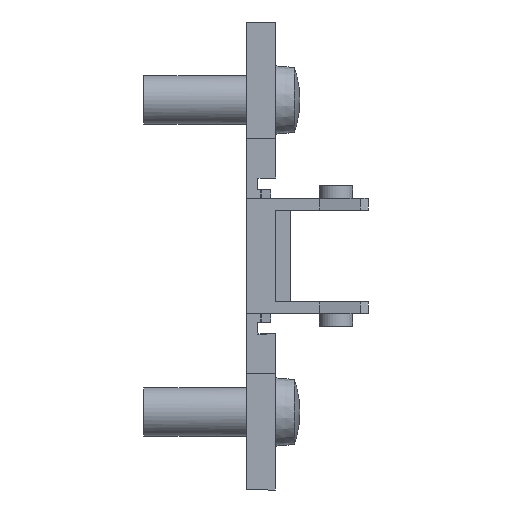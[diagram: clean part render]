
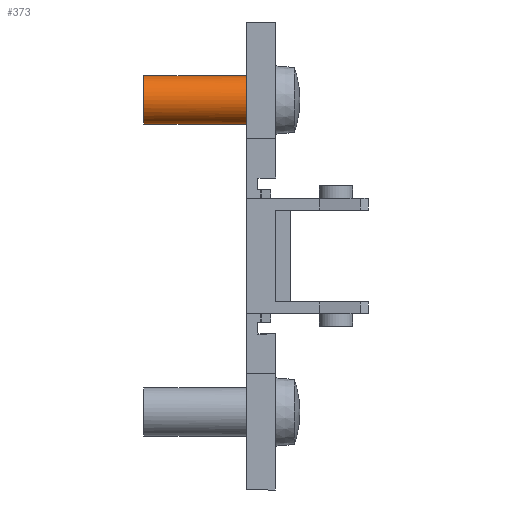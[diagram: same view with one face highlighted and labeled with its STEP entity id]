
A CAD part, front view. The second image highlights one B-rep face of the part: STEP entity #373.
In plain terms, the highlighted cylindrical face has radius 2.5 mm (diameter 5 mm), a partial arc.
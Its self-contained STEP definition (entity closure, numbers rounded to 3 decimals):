
#45 = EDGE_CURVE ( 'NONE', #3146, #3150, #3586, .T. ) ;
#65 = EDGE_CURVE ( 'NONE', #2855, #3114, #3624, .T. ) ;
#140 = EDGE_CURVE ( 'NONE', #3114, #3146, #3754, .T. ) ;
#203 = EDGE_CURVE ( 'NONE', #3145, #3015, #3866, .T. ) ;
#245 = EDGE_LOOP ( 'NONE', ( #2078, #2106, #2115, #2096, #2081, #2092 ) ) ;
#373 = ADVANCED_FACE ( 'NONE', ( #4056 ), #4059, .T. ) ;
#660 = DIRECTION ( 'NONE',  ( 0., 0., -1. ) ) ;
#661 = DIRECTION ( 'NONE',  ( -1., 0., 0. ) ) ;
#662 = CARTESIAN_POINT ( 'NONE',  ( -10.5, 0., 16. ) ) ;
#1147 = AXIS2_PLACEMENT_3D ( 'NONE', #1390, #1391, #1392 ) ;
#1161 = AXIS2_PLACEMENT_3D ( 'NONE', #662, #661, #660 ) ;
#1181 = AXIS2_PLACEMENT_3D ( 'NONE', #1431, #1432, #1433 ) ;
#1310 = EDGE_CURVE ( 'NONE', #3150, #3015, #4336, .T. ) ;
#1337 = EDGE_CURVE ( 'NONE', #2855, #3145, #4360, .T. ) ;
#1353 = AXIS2_PLACEMENT_3D ( 'NONE', #1592, #1593, #1594 ) ;
#1354 = AXIS2_PLACEMENT_3D ( 'NONE', #1734, #1735, #1736 ) ;
#1390 = CARTESIAN_POINT ( 'NONE',  ( 0., 0., 16. ) ) ;
#1391 = DIRECTION ( 'NONE',  ( 1., 0., 0. ) ) ;
#1392 = DIRECTION ( 'NONE',  ( 0., 0., -1. ) ) ;
#1431 = CARTESIAN_POINT ( 'NONE',  ( 0., 0., 16. ) ) ;
#1432 = DIRECTION ( 'NONE',  ( 1., 0., 0. ) ) ;
#1433 = DIRECTION ( 'NONE',  ( 0., 0., -1. ) ) ;
#1592 = CARTESIAN_POINT ( 'NONE',  ( 0., 0., 16. ) ) ;
#1593 = DIRECTION ( 'NONE',  ( 1., 0., 0. ) ) ;
#1594 = DIRECTION ( 'NONE',  ( 0., 0., -1. ) ) ;
#1734 = CARTESIAN_POINT ( 'NONE',  ( -10.5, 0., 16. ) ) ;
#1735 = DIRECTION ( 'NONE',  ( 1., 0., 0. ) ) ;
#1736 = DIRECTION ( 'NONE',  ( 0., 0., -1. ) ) ;
#2078 = ORIENTED_EDGE ( 'NONE', *, *, #65, .F. ) ;
#2081 = ORIENTED_EDGE ( 'NONE', *, *, #45, .F. ) ;
#2092 = ORIENTED_EDGE ( 'NONE', *, *, #140, .F. ) ;
#2096 = ORIENTED_EDGE ( 'NONE', *, *, #1310, .F. ) ;
#2106 = ORIENTED_EDGE ( 'NONE', *, *, #1337, .T. ) ;
#2115 = ORIENTED_EDGE ( 'NONE', *, *, #203, .T. ) ;
#2855 = VERTEX_POINT ( 'NONE', #3251 ) ;
#3015 = VERTEX_POINT ( 'NONE', #3374 ) ;
#3114 = VERTEX_POINT ( 'NONE', #3456 ) ;
#3145 = VERTEX_POINT ( 'NONE', #3481 ) ;
#3146 = VERTEX_POINT ( 'NONE', #3482 ) ;
#3150 = VERTEX_POINT ( 'NONE', #3484 ) ;
#3188 = CARTESIAN_POINT ( 'NONE',  ( -10.5, 0., 13.5 ) ) ;
#3189 = DIRECTION ( 'NONE',  ( -1., 0., 0. ) ) ;
#3207 = CARTESIAN_POINT ( 'NONE',  ( -10.5, 0., 18.5 ) ) ;
#3208 = DIRECTION ( 'NONE',  ( -1., 0., 0. ) ) ;
#3251 = CARTESIAN_POINT ( 'NONE',  ( 0., 0., 18.5 ) ) ;
#3374 = CARTESIAN_POINT ( 'NONE',  ( -10.5, 0., 13.5 ) ) ;
#3456 = CARTESIAN_POINT ( 'NONE',  ( 0., -2.25, 17.09 ) ) ;
#3481 = CARTESIAN_POINT ( 'NONE',  ( -10.5, 0., 18.5 ) ) ;
#3482 = CARTESIAN_POINT ( 'NONE',  ( 0., -2.25, 14.91 ) ) ;
#3484 = CARTESIAN_POINT ( 'NONE',  ( 0., 0., 13.5 ) ) ;
#3586 = CIRCLE ( 'NONE', #1147, 2.5 ) ;
#3624 = CIRCLE ( 'NONE', #1181, 2.5 ) ;
#3754 = CIRCLE ( 'NONE', #1353, 2.5 ) ;
#3866 = CIRCLE ( 'NONE', #1354, 2.5 ) ;
#4056 = FACE_OUTER_BOUND ( 'NONE', #245, .T. ) ;
#4059 = CYLINDRICAL_SURFACE ( 'NONE', #1161, 2.5 ) ;
#4330 = VECTOR ( 'NONE', #3189, 1000. ) ;
#4336 = LINE ( 'NONE', #3188, #4330 ) ;
#4360 = LINE ( 'NONE', #3207, #4361 ) ;
#4361 = VECTOR ( 'NONE', #3208, 1000. ) ;
